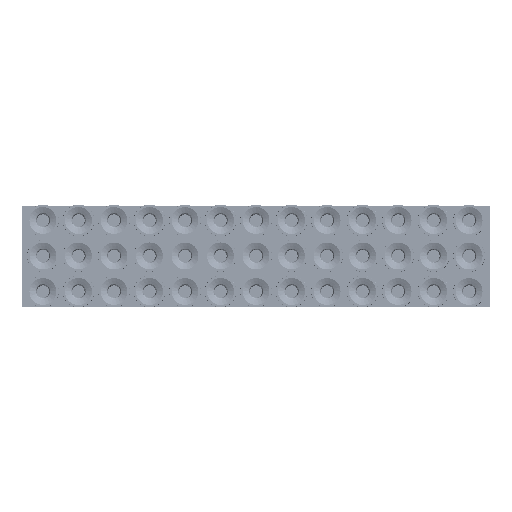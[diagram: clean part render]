
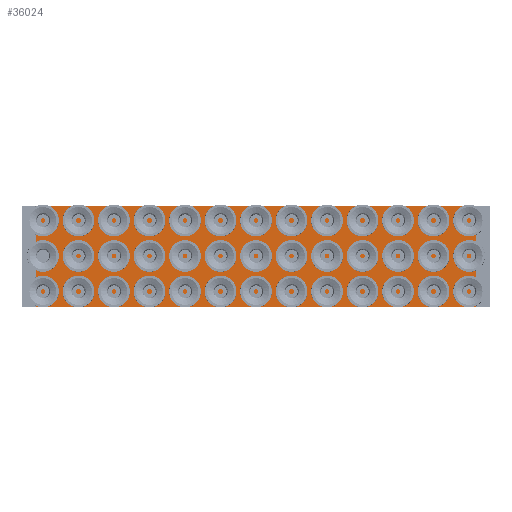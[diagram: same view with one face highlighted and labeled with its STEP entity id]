
A CAD part, top view. The second image highlights one B-rep face of the part: STEP entity #36024.
In plain terms, the highlighted planar face has unit normal (0, 0, 1) as drawn and (0, 0, -1) by its records, which use the part's own axes.
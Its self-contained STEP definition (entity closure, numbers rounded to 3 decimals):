
#449 = VERTEX_POINT ( 'NONE', #5992 ) ;
#1879 = DIRECTION ( 'NONE',  ( 0., -1., 0. ) ) ;
#2798 = LINE ( 'NONE', #150329, #136303 ) ;
#5992 = CARTESIAN_POINT ( 'NONE',  ( 64., 278.5, 0. ) ) ;
#20817 = EDGE_LOOP ( 'NONE', ( #75536, #58521 ) ) ;
#21286 = DIRECTION ( 'NONE',  ( 0., 1., 0. ) ) ;
#22653 = VERTEX_POINT ( 'NONE', #137638 ) ;
#26280 = LINE ( 'NONE', #80089, #157562 ) ;
#28150 = DIRECTION ( 'NONE',  ( 1., 0., 0. ) ) ;
#28207 = VERTEX_POINT ( 'NONE', #78020 ) ;
#30124 = EDGE_CURVE ( 'NONE', #117825, #449, #2798, .T. ) ;
#31039 = VERTEX_POINT ( 'NONE', #64678 ) ;
#36024 = ADVANCED_FACE ( 'NONE', ( #54572, #128558 ), #116106, .F. ) ;
#40189 = CARTESIAN_POINT ( 'NONE',  ( 0., 270., 0. ) ) ;
#44302 = DIRECTION ( 'NONE',  ( 1., 0., 0. ) ) ;
#46725 = VECTOR ( 'NONE', #69841, 1000. ) ;
#47386 = AXIS2_PLACEMENT_3D ( 'NONE', #70207, #145290, #79338 ) ;
#50334 = CARTESIAN_POINT ( 'NONE',  ( 4.25, 270., 0. ) ) ;
#54572 = FACE_BOUND ( 'NONE', #20817, .T. ) ;
#58521 = ORIENTED_EDGE ( 'NONE', *, *, #94659, .F. ) ;
#62762 = CIRCLE ( 'NONE', #99287, 4.25 ) ;
#64678 = CARTESIAN_POINT ( 'NONE',  ( -64., 278.5, 0. ) ) ;
#65214 = EDGE_LOOP ( 'NONE', ( #104320, #133218, #113817, #107263 ) ) ;
#69841 = DIRECTION ( 'NONE',  ( -1., 0., 0. ) ) ;
#70207 = CARTESIAN_POINT ( 'NONE',  ( 0., -278.5, 0. ) ) ;
#75536 = ORIENTED_EDGE ( 'NONE', *, *, #101977, .F. ) ;
#78020 = CARTESIAN_POINT ( 'NONE',  ( -64., -278.5, 0. ) ) ;
#78940 = CIRCLE ( 'NONE', #160018, 4.25 ) ;
#79338 = DIRECTION ( 'NONE',  ( 1., 0., 0. ) ) ;
#80089 = CARTESIAN_POINT ( 'NONE',  ( 59.5, -278.5, 0. ) ) ;
#82664 = EDGE_CURVE ( 'NONE', #449, #31039, #89928, .T. ) ;
#86684 = CARTESIAN_POINT ( 'NONE',  ( 64., -278.5, 0. ) ) ;
#89928 = LINE ( 'NONE', #108325, #46725 ) ;
#94659 = EDGE_CURVE ( 'NONE', #22653, #109951, #78940, .T. ) ;
#99287 = AXIS2_PLACEMENT_3D ( 'NONE', #40189, #106798, #28150 ) ;
#101977 = EDGE_CURVE ( 'NONE', #109951, #22653, #62762, .T. ) ;
#104320 = ORIENTED_EDGE ( 'NONE', *, *, #30124, .F. ) ;
#106798 = DIRECTION ( 'NONE',  ( 0., 0., -1. ) ) ;
#107263 = ORIENTED_EDGE ( 'NONE', *, *, #82664, .F. ) ;
#108325 = CARTESIAN_POINT ( 'NONE',  ( 59.5, 278.5, 0. ) ) ;
#109951 = VERTEX_POINT ( 'NONE', #50334 ) ;
#110342 = CARTESIAN_POINT ( 'NONE',  ( 0., 270., 0. ) ) ;
#111005 = LINE ( 'NONE', #159524, #154029 ) ;
#113817 = ORIENTED_EDGE ( 'NONE', *, *, #152705, .F. ) ;
#116106 = PLANE ( 'NONE',  #47386 ) ;
#116575 = EDGE_CURVE ( 'NONE', #28207, #117825, #26280, .T. ) ;
#117825 = VERTEX_POINT ( 'NONE', #86684 ) ;
#123469 = DIRECTION ( 'NONE',  ( 0., 0., -1. ) ) ;
#128558 = FACE_OUTER_BOUND ( 'NONE', #65214, .T. ) ;
#133218 = ORIENTED_EDGE ( 'NONE', *, *, #116575, .F. ) ;
#136303 = VECTOR ( 'NONE', #21286, 1000. ) ;
#137638 = CARTESIAN_POINT ( 'NONE',  ( -4.25, 270., 0. ) ) ;
#143800 = DIRECTION ( 'NONE',  ( 1., 0., 0. ) ) ;
#145290 = DIRECTION ( 'NONE',  ( 0., 0., 1. ) ) ;
#150329 = CARTESIAN_POINT ( 'NONE',  ( 64., -278.5, 0. ) ) ;
#152705 = EDGE_CURVE ( 'NONE', #31039, #28207, #111005, .T. ) ;
#154029 = VECTOR ( 'NONE', #1879, 1000. ) ;
#157562 = VECTOR ( 'NONE', #143800, 1000. ) ;
#159524 = CARTESIAN_POINT ( 'NONE',  ( -64., -278.5, 0. ) ) ;
#160018 = AXIS2_PLACEMENT_3D ( 'NONE', #110342, #123469, #44302 ) ;
